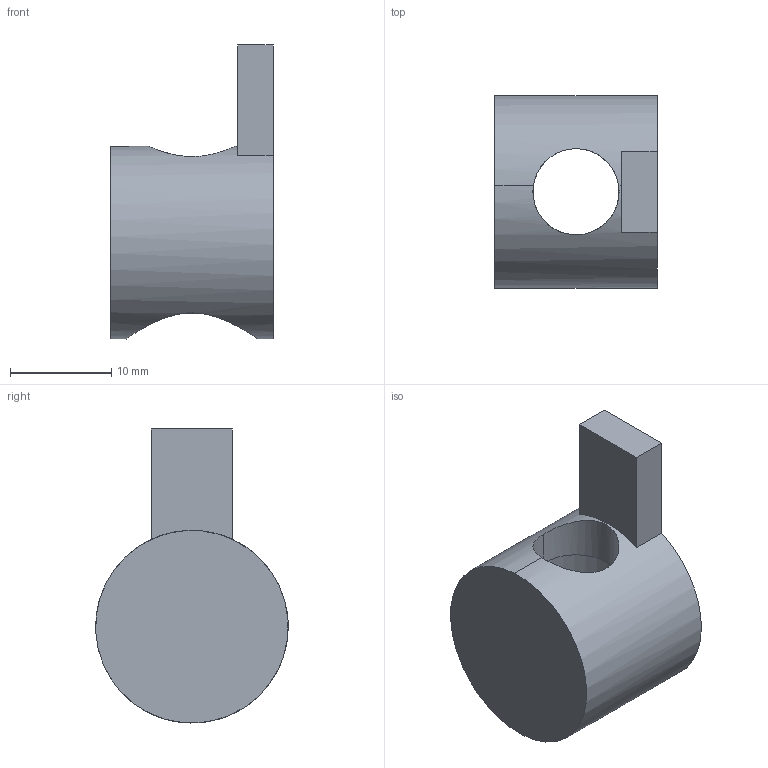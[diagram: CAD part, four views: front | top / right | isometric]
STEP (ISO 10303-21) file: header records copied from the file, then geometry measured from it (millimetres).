
FILE_DESCRIPTION (( 'STEP AP214' ), '1' );
FILE_NAME ('1.3009 pulttikiinnike 20 C.STEP', '2025-09-09T11:48:14', ( '' ), ( '' ), 'SwSTEP 2.0', 'SolidWorks 2025', '' );
FILE_SCHEMA (( 'AUTOMOTIVE_DESIGN' ));
Length unit declared in the file: millimetre
Products named in the file (1): 1.3009 pulttikiinnike 20 C
Bounding box: 16 x 18.98 x 29 mm (x, y, z)
Volume: 2737.4 mm3; surface area: 2285.9 mm2
Topology: 1 solids, 1 shells, 13 faces, 37 edges, 25 vertices
Faces by surface type: plane 7, cylinder 6
Entity records: 687 total; most frequent: CARTESIAN_POINT 325, ORIENTED_EDGE 74, DIRECTION 66, EDGE_CURVE 37, VERTEX_POINT 25, AXIS2_PLACEMENT_3D 24, VECTOR 18, LINE 18
